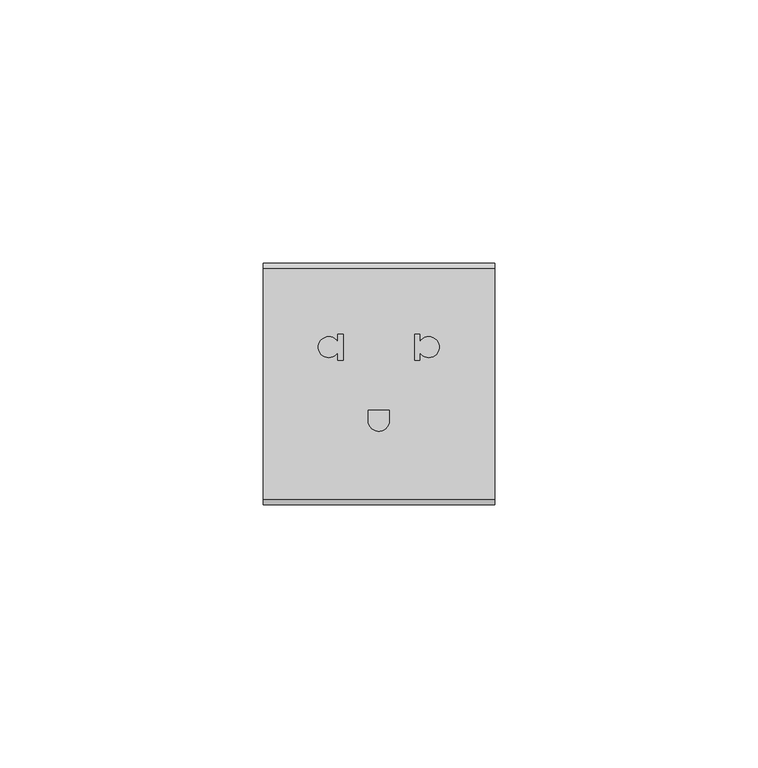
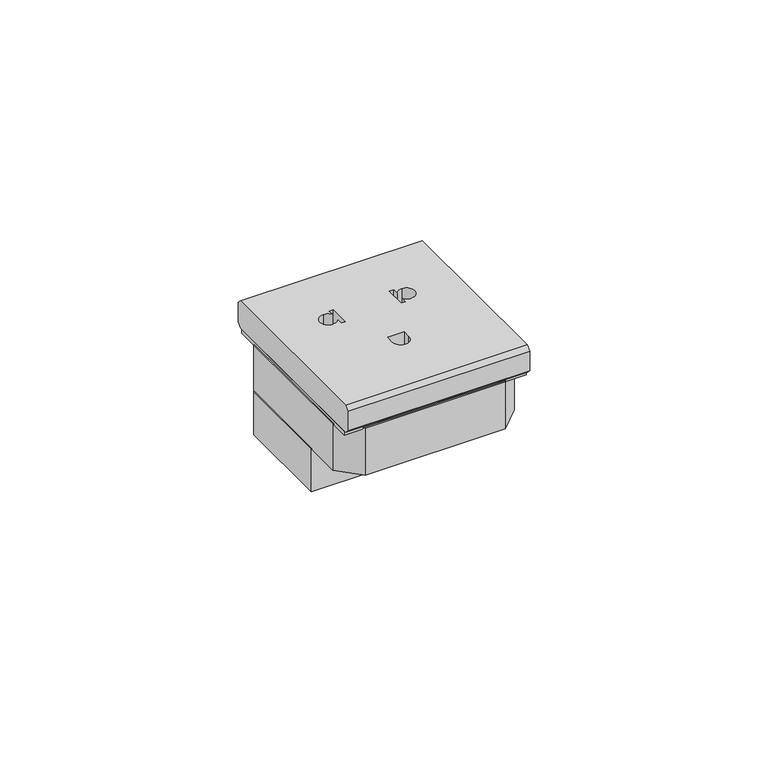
"""IFC4 building model written with IfcOpenShell, lengths in millimetres: proxy geometry, L4126 LI Presa FM 2P+T euro americana : L4126 LI Presa FM 2P+T euro americana."""

import ifcopenshell
import ifcopenshell.guid

model = None  # the IFC model being written
_history = None  # IfcOwnerHistory: only IFC2X3 demands one
_inside = {}  # id of a spatial element -> (the spatial element, [elements in it])
_under = {}  # id of a project, library or spatial element -> (it, [spatial elements below it])
_declared = {}  # id of a project -> (the project, [libraries it declares])
_typed = {}  # id of a type object -> (the type object, [elements of that type])
_made_of = {}  # id of a material, layer set ... -> (it, [elements and type objects made of it])


def new_model(schema):
    """Start an empty IFC model of exactly this schema.

    Asked for "IFC4X3", IfcOpenShell would pick the latest addendum, in which some entities
    have other attributes; the version numbers below select the first issue.
    IFC2X3 requires an IfcOwnerHistory on every rooted entity: one is made here for all.
    """
    global model, _history
    if schema == "IFC4X3":
        model = ifcopenshell.file(schema_version=(4, 3, 0, 0))
    else:
        model = ifcopenshell.file(schema=schema)
    _inside.clear()
    _under.clear()
    _declared.clear()
    _typed.clear()
    _made_of.clear()
    _history = None
    if model.schema == "IFC2X3":
        org = make("IfcOrganization", Name="unknown")
        user = make(
            "IfcPersonAndOrganization",
            ThePerson=make("IfcPerson", FamilyName="unknown"),
            TheOrganization=org,
        )
        app = make(
            "IfcApplication",
            ApplicationDeveloper=org,
            Version="unknown",
            ApplicationFullName="unknown",
            ApplicationIdentifier="unknown",
        )
        _history = make(
            "IfcOwnerHistory",
            OwningUser=user,
            OwningApplication=app,
            ChangeAction="ADDED",
            CreationDate=0,
        )
    return model


def make(cls, **values):
    """One entity of the class cls with the attributes given. An attribute that is None is left unset."""
    return model.create_entity(
        cls, **{name: value for name, value in values.items() if value is not None}
    )


def rooted(cls, **values):
    """An entity with a GlobalId (a new one), such as an element, a storey or a relation."""
    return make(cls, GlobalId=ifcopenshell.guid.new(), OwnerHistory=_history, **values)


def si_unit(unit_type, name, prefix=None):
    """IfcSIUnit, for example si_unit("LENGTHUNIT", "METRE", prefix="MILLI")."""
    return make("IfcSIUnit", UnitType=unit_type, Prefix=prefix, Name=name)


def assignment(units):
    """IfcUnitAssignment: the units of a project."""
    return None if units is None else make("IfcUnitAssignment", Units=units)


def point(xyz):
    """IfcCartesianPoint."""
    return None if xyz is None else make("IfcCartesianPoint", Coordinates=xyz)


def direction(xyz):
    """IfcDirection."""
    return None if xyz is None else make("IfcDirection", DirectionRatios=xyz)


def frame(location, z_axis=None, x_axis=None):
    """IfcAxis2Placement3D, a coordinate frame: its origin and axes. An axis left out is left unset."""
    return make(
        "IfcAxis2Placement3D",
        Location=point(location),
        Axis=direction(z_axis),
        RefDirection=direction(x_axis),
    )


def origin():
    """The frame at (0, 0, 0) with its axes left unset."""
    return frame((0.0, 0.0, 0.0))


def origin_with_axes():
    """The frame at (0, 0, 0) with the z axis (0, 0, 1) and the x axis (1, 0, 0) written out."""
    return frame((0.0, 0.0, 0.0), z_axis=(0.0, 0.0, 1.0), x_axis=(1.0, 0.0, 0.0))


def place(relative_to, where):
    """IfcLocalPlacement: puts the frame where relative to a parent placement (None: the world)."""
    return make(
        "IfcLocalPlacement", PlacementRelTo=relative_to, RelativePlacement=where
    )


def context(
    kind, dimensions, precision=None, world=None, true_north=None, identifier=None
):
    """IfcGeometricRepresentationContext, for example the 3D "Model" context."""
    return make(
        "IfcGeometricRepresentationContext",
        ContextIdentifier=identifier,
        ContextType=kind,
        CoordinateSpaceDimension=dimensions,
        Precision=precision,
        WorldCoordinateSystem=world,
        TrueNorth=true_north,
    )


def project(units=None, contexts=None):
    """IfcProject with its units and contexts."""
    return rooted(
        "IfcProject",
        Name="project",
        RepresentationContexts=contexts,
        UnitsInContext=assignment(units),
    )


def spatial(cls, under=None, at=None, **own):
    """A site, building, storey or space (cls), placed at a placement, below another one or the project."""
    s = rooted(cls, ObjectPlacement=at, **own)
    if under is not None:
        _under.setdefault(under.id(), (under, []))[1].append(s)
    return s


def polyline(points):
    """IfcPolyline through the points."""
    return make("IfcPolyline", Points=[point(p) for p in points])


def circle_curve(where, radius):
    """IfcCircle in the frame where."""
    return make("IfcCircle", Position=where, Radius=radius)


def ellipse_curve(where, semi_axis1, semi_axis2):
    """IfcEllipse in the frame where."""
    return make(
        "IfcEllipse", Position=where, SemiAxis1=semi_axis1, SemiAxis2=semi_axis2
    )


def trimmed(basis, trim1, trim2, sense, master):
    """IfcTrimmedCurve: the piece of a basis curve between two trims."""
    return make(
        "IfcTrimmedCurve",
        BasisCurve=basis,
        Trim1=trim1,
        Trim2=trim2,
        SenseAgreement=sense,
        MasterRepresentation=master,
    )


def outline(outer, holes=None, kind="AREA"):
    """IfcArbitraryClosedProfileDef: a profile drawn as a closed curve; with holes, ...WithVoids."""
    if holes is None:
        return make("IfcArbitraryClosedProfileDef", ProfileType=kind, OuterCurve=outer)
    return make(
        "IfcArbitraryProfileDefWithVoids",
        ProfileType=kind,
        OuterCurve=outer,
        InnerCurves=holes,
    )


def extrude(swept, where, along, depth):
    """IfcExtrudedAreaSolid: the profile swept, set in the frame where, extruded along a direction by depth."""
    return make(
        "IfcExtrudedAreaSolid",
        SweptArea=swept,
        Position=where,
        ExtrudedDirection=direction(along),
        Depth=depth,
    )


def shape(context_of_items, identifier, shape_type, items):
    """IfcShapeRepresentation: the items that make up one representation, for example the "Body"."""
    return make(
        "IfcShapeRepresentation",
        ContextOfItems=context_of_items,
        RepresentationIdentifier=identifier,
        RepresentationType=shape_type,
        Items=items,
    )


def source(mapping_origin, context_of_items, identifier, shape_type, items):
    """IfcRepresentationMap: a shape defined once, which mapped items show again and again."""
    return make(
        "IfcRepresentationMap",
        MappingOrigin=mapping_origin,
        MappedRepresentation=shape(context_of_items, identifier, shape_type, items),
    )


def transform(
    local_origin,
    x_axis=None,
    y_axis=None,
    z_axis=None,
    scale=None,
    scale2=None,
    scale3=None,
    uniform=True,
):
    """IfcCartesianTransformationOperator3D, or its non-uniform kind. x_axis, y_axis, z_axis: its Axis1, 2, 3."""
    if uniform:
        return make(
            "IfcCartesianTransformationOperator3D",
            Axis1=direction(x_axis),
            Axis2=direction(y_axis),
            LocalOrigin=point(local_origin),
            Scale=scale,
            Axis3=direction(z_axis),
        )
    return make(
        "IfcCartesianTransformationOperator3DnonUniform",
        Axis1=direction(x_axis),
        Axis2=direction(y_axis),
        LocalOrigin=point(local_origin),
        Scale=scale,
        Axis3=direction(z_axis),
        Scale2=scale2,
        Scale3=scale3,
    )


def mapped(mapping_source, mapping_target):
    """IfcMappedItem: shows the shape of a source again, moved by a transform."""
    return make(
        "IfcMappedItem", MappingSource=mapping_source, MappingTarget=mapping_target
    )


def made_of(thing, what):
    """Note that an element or type object is made of a material, layer set ...; save() writes the relation."""
    if what is not None:
        _made_of.setdefault(what.id(), (what, []))[1].append(thing)
    return thing


def element(
    cls,
    number,
    at=None,
    inside=None,
    cuts=None,
    type_object=None,
    material=None,
    context=None,
    identifier="Body",
    shape_type=None,
    held_by="IfcProductDefinitionShape",
    body=None,
    shapes=None,
    **own,
):
    """One element of the class cls, such as IfcWall. Its Tag is "e" and its number.

    at: its placement. inside: the storey or other place that contains it. cuts: it is an
    opening in that element (IfcRelVoidsElement). A single representation is given by context,
    identifier, shape_type and body (its items); several are given by shapes. held_by: the class
    of the entity that holds the representations. save() writes the other relations.
    """
    e = rooted(cls, Tag="e%d" % number, ObjectPlacement=at, **own)
    if body is not None:
        shapes = [shape(context, identifier, shape_type, body)]
    if shapes is not None:
        e.Representation = make(held_by, Representations=shapes)
    if inside is not None:
        _inside.setdefault(inside.id(), (inside, []))[1].append(e)
    if cuts is not None:
        rooted(
            "IfcRelVoidsElement", RelatingBuildingElement=cuts, RelatedOpeningElement=e
        )
    if type_object is not None:
        _typed.setdefault(type_object.id(), (type_object, []))[1].append(e)
    return made_of(e, material)


def aggregate(whole, parts):
    """IfcRelAggregates: a whole, such as a stair, and the parts it consists of."""
    return rooted("IfcRelAggregates", RelatingObject=whole, RelatedObjects=parts)


def save(model, path):
    """Write the relations noted so far, then the file.

    IfcRelAggregates (storeys below a building ...), IfcRelContainedInSpatialStructure (elements
    in a storey), IfcRelDefinesByType, IfcRelAssociatesMaterial and IfcRelDeclares: one each for
    every whole, place, type object, material and project.
    """
    for whole, parts in _under.values():
        aggregate(whole, parts)
    for where, things in _inside.values():
        rooted(
            "IfcRelContainedInSpatialStructure",
            RelatedElements=things,
            RelatingStructure=where,
        )
    for kind, things in _typed.values():
        rooted("IfcRelDefinesByType", RelatedObjects=things, RelatingType=kind)
    for what, things in _made_of.values():
        rooted("IfcRelAssociatesMaterial", RelatedObjects=things, RelatingMaterial=what)
    for by, libraries in _declared.values():
        rooted("IfcRelDeclares", RelatingContext=by, RelatedDefinitions=libraries)
    model.write(path)


def plane_surface(at):
    """IfcPlane: the flat surface through the origin of the frame at, square to its z axis."""
    return make("IfcPlane", Position=at)


def revolved_surface(curve, axis_point, axis_direction):
    """IfcSurfaceOfRevolution: the curve turned about the line through axis_point along axis_direction."""
    return make(
        "IfcSurfaceOfRevolution",
        SweptCurve=make("IfcArbitraryOpenProfileDef", ProfileType="CURVE", Curve=curve),
        AxisPosition=make("IfcAxis1Placement", Location=point(axis_point), Axis=direction(axis_direction)),
    )


def extruded_surface(curve, direction_of_extrusion, depth):
    """IfcSurfaceOfLinearExtrusion: the curve pushed along a direction by depth."""
    return make(
        "IfcSurfaceOfLinearExtrusion",
        SweptCurve=make("IfcArbitraryOpenProfileDef", ProfileType="CURVE", Curve=curve),
        ExtrudedDirection=direction(direction_of_extrusion),
        Depth=depth,
    )


def advanced_brep(points, edges, surfaces, faces):
    """IfcAdvancedBrep: a solid bounded by faces that lie on surfaces and meet in shared edges.

    An edge is (start, end): straight between two places in points (the first is 0);
    or (start, end, curve); or (start, end, curve, False) where it runs against its curve.
    A face is (place in surfaces, loops), or (place, loops, False) where it looks against
    its surface's normal. A loop lists edges by number (the first is 1), with a minus sign
    where the edge is run from its end to its start. The first loop is the outer one.
    """
    corners = [point(p) for p in points]
    vertices = [make("IfcVertexPoint", VertexGeometry=c) for c in corners]
    made = []
    for start, end, *more in edges:
        made.append(
            make(
                "IfcEdgeCurve",
                EdgeStart=vertices[start],
                EdgeEnd=vertices[end],
                EdgeGeometry=more[0] if more else make("IfcPolyline", Points=[corners[start], corners[end]]),
                SameSense=more[1] if len(more) > 1 else True,
            )
        )
    hull = []
    for where, loops, *sense in faces:
        bounds = []
        for j, loop in enumerate(loops):
            ring = [make("IfcOrientedEdge", EdgeElement=made[abs(k) - 1], Orientation=k > 0) for k in loop]
            bounds.append(
                make(
                    "IfcFaceOuterBound" if j == 0 else "IfcFaceBound",
                    Bound=make("IfcEdgeLoop", EdgeList=ring),
                    Orientation=True,
                )
            )
        hull.append(make("IfcAdvancedFace", Bounds=bounds, FaceSurface=surfaces[where], SameSense=sense[0] if sense else True))
    return make("IfcAdvancedBrep", Outer=make("IfcClosedShell", CfsFaces=hull))


def electrical_fixtures_458b549f(model_context):
    return source(origin(), model_context, "Body", "SolidModel", [
        advanced_brep(
        [(22.0, -22.0, 1.0), (22.0, 22.0, 1.0), (22.0, 22.9899495, 1.9899495), (22.0, 22.9899495, 6.9899495), (22.0, 22.0, 7.979899), (22.0, -22.0, 7.979899), (22.0, -22.9899495, 6.9899495), (22.0, -22.9899495, 1.9899495), (-22.0, -22.0, 1.0), (-22.0, -22.9899495, 1.9899495), (-22.0, -22.9899495, 6.9899495), (-22.0, -22.0, 7.979899), (-22.0, 22.0, 7.979899), (-22.0, 22.9899495, 6.9899495), (-22.0, 22.9899495, 1.9899495), (-22.0, 22.0, 1.0), (9.5, 5.0, 1.0), (9.5, 9.0, 1.0), (7.8, 8.0535654, 1.0), (7.8, 9.5, 1.0), (6.8, 9.5, 1.0), (6.8, 4.5, 1.0), (7.8, 4.5, 1.0), (7.8, 5.9464346, 1.0), (-9.5, 9.0, 1.0), (-9.5, 5.0, 1.0), (-7.8, 5.9464346, 1.0), (-7.8, 4.5, 1.0), (-6.8, 4.5, 1.0), (-6.8, 9.5, 1.0), (-7.8, 9.5, 1.0), (-7.8, 8.0535654, 1.0), (2.0, -5.0, 1.0), (-2.0, -5.0, 1.0), (-2.0, -7.0, 1.0), (2.0, -7.0, 1.0), (9.5, 9.0, 7.979899), (9.5, 5.0, 7.979899), (7.8, 5.9464346, 7.979899), (7.8, 4.5, 7.979899), (6.8, 4.5, 7.979899), (6.8, 9.5, 7.979899), (7.8, 9.5, 7.979899), (7.8, 8.0535654, 7.979899), (-9.5, 5.0, 7.979899), (-9.5, 9.0, 7.979899), (-7.8, 8.0535654, 7.979899), (-7.8, 9.5, 7.979899), (-6.8, 9.5, 7.979899), (-6.8, 4.5, 7.979899), (-7.8, 4.5, 7.979899), (-7.8, 5.9464346, 7.979899), (-2.0, -5.0, 7.979899), (2.0, -5.0, 7.979899), (2.0, -7.0, 7.979899), (-2.0, -7.0, 7.979899)],
        [
            (0, 1),
            (1, 2),
            (2, 3),
            (3, 4),
            (4, 5),
            (5, 6),
            (6, 7),
            (7, 0),
            (8, 9),
            (9, 10),
            (10, 11),
            (11, 12),
            (12, 13),
            (13, 14),
            (14, 15),
            (15, 8),
            (0, 8),
            (15, 1),
            (16, 17, circle_curve(frame((9.5, 7.0, 1.0), z_axis=(0.0, 0.0, 1.0), x_axis=(0.0, -1.0, 0.0)), 2.0)),
            (17, 18, circle_curve(frame((9.5, 7.0, 1.0), z_axis=(0.0, 0.0, 1.0), x_axis=(0.0, -1.0, 0.0)), 2.0)),
            (18, 19),
            (19, 20),
            (20, 21),
            (21, 22),
            (22, 23),
            (23, 16, circle_curve(frame((9.5, 7.0, 1.0), z_axis=(0.0, 0.0, 1.0), x_axis=(0.0, -1.0, 0.0)), 2.0)),
            (24, 25, circle_curve(frame((-9.5, 7.0, 1.0), z_axis=(0.0, 0.0, 1.0), x_axis=(0.0, -1.0, 0.0)), 2.0)),
            (25, 26, circle_curve(frame((-9.5, 7.0, 1.0), z_axis=(0.0, 0.0, 1.0), x_axis=(0.0, -1.0, 0.0)), 2.0)),
            (26, 27),
            (27, 28),
            (28, 29),
            (29, 30),
            (30, 31),
            (31, 24, circle_curve(frame((-9.5, 7.0, 1.0), z_axis=(0.0, 0.0, 1.0), x_axis=(0.0, -1.0, 0.0)), 2.0)),
            (32, 33),
            (33, 34),
            (34, 35, circle_curve(frame((0.0, -7.0, 1.0), z_axis=(0.0, 0.0, 1.0), x_axis=(-1.0, 0.0, 0.0)), 2.0)),
            (35, 32),
            (5, 11),
            (10, 6),
            (9, 7),
            (14, 2),
            (13, 3),
            (12, 4),
            (36, 37, circle_curve(frame((9.5, 7.0, 7.979899), z_axis=(0.0, 0.0, -1.0), x_axis=(0.0, -1.0, 0.0)), 2.0)),
            (37, 38, circle_curve(frame((9.5, 7.0, 7.979899), z_axis=(0.0, 0.0, -1.0), x_axis=(0.0, -1.0, 0.0)), 2.0)),
            (38, 39),
            (39, 40),
            (40, 41),
            (41, 42),
            (42, 43),
            (43, 36, circle_curve(frame((9.5, 7.0, 7.979899), z_axis=(0.0, 0.0, -1.0), x_axis=(0.0, -1.0, 0.0)), 2.0)),
            (44, 45, circle_curve(frame((-9.5, 7.0, 7.979899), z_axis=(0.0, 0.0, -1.0), x_axis=(0.0, -1.0, 0.0)), 2.0)),
            (45, 46, circle_curve(frame((-9.5, 7.0, 7.979899), z_axis=(0.0, 0.0, -1.0), x_axis=(0.0, -1.0, 0.0)), 2.0)),
            (46, 47),
            (47, 48),
            (48, 49),
            (49, 50),
            (50, 51),
            (51, 44, circle_curve(frame((-9.5, 7.0, 7.979899), z_axis=(0.0, 0.0, -1.0), x_axis=(0.0, -1.0, 0.0)), 2.0)),
            (52, 53),
            (53, 54),
            (54, 55, circle_curve(frame((0.0, -7.0, 7.979899), z_axis=(0.0, 0.0, -1.0), x_axis=(-1.0, 0.0, 0.0)), 2.0)),
            (55, 52),
            (17, 36),
            (43, 18),
            (37, 16),
            (23, 38),
            (44, 25),
            (24, 45),
            (31, 46),
            (51, 26),
            (39, 22),
            (21, 40),
            (42, 19),
            (41, 20),
            (48, 29),
            (28, 49),
            (47, 30),
            (50, 27),
            (52, 33),
            (32, 53),
            (55, 34),
            (54, 35),
        ],
        [
            plane_surface(frame((22.0, 0.0, 1.0), z_axis=(1.0, 0.0, 0.0), x_axis=(0.0, 1.0, 0.0))),
            plane_surface(frame((-22.0, 0.0, 1.0), z_axis=(-1.0, 0.0, 0.0), x_axis=(0.0, -1.0, 0.0))),
            plane_surface(frame((22.0, -22.0, 1.0), z_axis=(0.0, 0.0, -1.0), x_axis=(-1.0, 0.0, 0.0))),
            plane_surface(frame((22.0, -22.0, 7.979899), z_axis=(0.0, -0.7071067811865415, 0.7071067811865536), x_axis=(-1.0, 0.0, 0.0))),
            plane_surface(frame((22.0, -22.9899495, 6.9899495), z_axis=(0.0, -1.0, 0.0), x_axis=(-1.0, 0.0, 0.0))),
            plane_surface(frame((22.0, -22.9899495, 1.9899495), z_axis=(0.0, -0.707106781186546, -0.707106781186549), x_axis=(-1.0, 0.0, 0.0))),
            plane_surface(frame((22.0, 22.0, 1.0), z_axis=(0.0, 0.7071067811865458, -0.7071067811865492), x_axis=(-1.0, 0.0, 0.0))),
            plane_surface(frame((22.0, 22.9899495, 1.9899495), z_axis=(0.0, 1.0, 0.0), x_axis=(-1.0, 0.0, 0.0))),
            plane_surface(frame((22.0, 22.9899495, 6.9899495), z_axis=(0.0, 0.7071067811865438, 0.7071067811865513), x_axis=(-1.0, 0.0, 0.0))),
            plane_surface(frame((22.0, 22.0, 7.979899), z_axis=(0.0, 0.0, 1.0), x_axis=(-1.0, 0.0, 0.0))),
            revolved_surface(polyline([(9.5, 5.0, 7.979899), (9.5, 5.0, 1.0)]), (9.5, 7.0, 1.0), (0.0, 0.0, 1.0)),
            revolved_surface(polyline([(-9.5, 5.0, 7.979899), (-9.5, 5.0, 1.0)]), (-9.5, 7.0, 0.0), (0.0, 0.0, 1.0)),
            plane_surface(frame((6.8, 4.5, 7.979899), z_axis=(0.0, 1.0, 0.0), x_axis=(0.0, 0.0, -1.0))),
            plane_surface(frame((7.8, 4.5, 7.979899), z_axis=(-1.0, 0.0, 0.0), x_axis=(0.0, 0.0, -1.0))),
            plane_surface(frame((7.8, 9.5, 7.979899), z_axis=(0.0, -1.0, 0.0), x_axis=(0.0, 0.0, -1.0))),
            plane_surface(frame((6.8, 9.5, 7.979899), z_axis=(1.0, 0.0, 0.0), x_axis=(0.0, 0.0, -1.0))),
            plane_surface(frame((-6.8, 4.5, 7.979899), z_axis=(-1.0, 0.0, 0.0), x_axis=(0.0, 0.0, -1.0))),
            plane_surface(frame((-6.8, 9.5, 7.979899), z_axis=(0.0, -1.0, 0.0), x_axis=(0.0, 0.0, -1.0))),
            plane_surface(frame((-7.8, 9.5, 7.979899), z_axis=(1.0, 0.0, 0.0), x_axis=(0.0, 0.0, -1.0))),
            plane_surface(frame((-7.8, 4.5, 7.979899), z_axis=(0.0, 1.0, 0.0), x_axis=(0.0, 0.0, -1.0))),
            plane_surface(frame((2.0, -5.0, 7.979899), z_axis=(0.0, -1.0, 0.0), x_axis=(0.0, 0.0, -1.0))),
            plane_surface(frame((-2.0, -5.0, 7.979899), z_axis=(1.0, 0.0, 0.0), x_axis=(0.0, 0.0, -1.0))),
            extruded_surface(trimmed(ellipse_curve(frame((0.0, -7.0, 0.0), z_axis=(0.0, 0.0, 1.0), x_axis=(-1.0, 0.0, 0.0)), 2.0, 2.0), [point((-2.0, -7.0, 0.0))], [point((2.0, -7.0, 0.0))], True, "CARTESIAN"), (0.0, 0.0, -6.979899), 6.979899),
            plane_surface(frame((2.0, -7.0, 7.979899), z_axis=(-1.0, 0.0, 0.0), x_axis=(0.0, 0.0, -1.0))),
        ],
        [
            (0, [[1, 2, 3, 4, 5, 6, 7, 8]]),
            (1, [[9, 10, 11, 12, 13, 14, 15, 16]]),
            (2, [[-1, 17, -16, 18], [19, 20, 21, 22, 23, 24, 25, 26], [27, 28, 29, 30, 31, 32, 33, 34], [35, 36, 37, 38]]),
            (3, [[-6, 39, -11, 40]]),
            (4, [[-7, -40, -10, 41]]),
            (5, [[-8, -41, -9, -17]]),
            (6, [[-2, -18, -15, 42]]),
            (7, [[-3, -42, -14, 43]]),
            (8, [[-4, -43, -13, 44]]),
            (9, [[-5, -44, -12, -39], [45, 46, 47, 48, 49, 50, 51, 52], [53, 54, 55, 56, 57, 58, 59, 60], [61, 62, 63, 64]]),
            (10, [[65, -52, 66, -20]]),
            (10, [[67, -26, 68, -46]]),
            (10, [[-67, -45, -65, -19]]),
            (11, [[69, -27, 70, -53]]),
            (11, [[-70, -34, 71, -54]]),
            (11, [[-69, -60, 72, -28]]),
            (12, [[73, -24, 74, -48]]),
            (13, [[-73, -47, -68, -25]]),
            (13, [[75, -21, -66, -51]]),
            (14, [[-75, -50, 76, -22]]),
            (15, [[-74, -23, -76, -49]]),
            (16, [[77, -31, 78, -57]]),
            (17, [[-77, -56, 79, -32]]),
            (18, [[-79, -55, -71, -33]]),
            (18, [[80, -29, -72, -59]]),
            (19, [[-78, -30, -80, -58]]),
            (20, [[81, -35, 82, -61]]),
            (21, [[-81, -64, 83, -36]]),
            (22, [[-83, -63, 84, -37]]),
            (23, [[-82, -38, -84, -62]]),
        ],
    ),
        extrude(outline(polyline([(-22.0, -7.5), (-22.0, 16.5), (-20.0, 18.5), (20.0, 18.5), (22.0, 16.5), (22.0, -7.5), (-22.0, -7.5)])), frame((0.0, 0.0, -23.0), z_axis=(0.0, 0.0, 1.0), x_axis=(1.0, 0.0, 0.0)), (0.0, 0.0, 1.0), 11.0),
        extrude(outline(polyline([(22.0, -16.5), (17.0, -21.5), (-17.0, -21.5), (-22.0, -16.5), (-22.0, 16.5), (-17.0, 21.5), (17.0, 21.5), (22.0, 16.5), (22.0, -16.5)])), frame((0.0, 0.0, -12.0), z_axis=(0.0, 0.0, 1.0), x_axis=(1.0, 0.0, 0.0)), (0.0, 0.0, 1.0), 12.0),
        extrude(outline(polyline([(22.0, -21.5), (-22.0, -21.5), (-22.0, 21.5), (22.0, 21.5), (22.0, -21.5)])), origin_with_axes(), (0.0, 0.0, 1.0), 1.0),
    ])


if __name__ == "__main__":
    model = new_model("IFC4")
    model_context = context("Model", 3, world=origin())
    ifc_project = project(units=[si_unit("LENGTHUNIT", "METRE", prefix="MILLI")], contexts=[model_context])
    site = spatial("IfcSite", under=ifc_project)
    building = spatial("IfcBuilding", under=site)
    placement = place(None, origin())
    electrical_fixtures_shape = electrical_fixtures_458b549f(model_context)
    element("IfcBuildingElementProxy", 1, Name="L4126 LI Presa FM 2P+T euro americana : L4126 LI Presa FM 2P+T euro americana", ObjectType="L4126 LI Presa FM 2P+T euro americana : L4126 LI Presa FM 2P+T euro americana", at=placement, inside=building, context=model_context, shape_type="MappedRepresentation", body=[
        mapped(electrical_fixtures_shape, transform((0.0, 0.0, 0.0), x_axis=(1.0, 0.0, 0.0), y_axis=(0.0, 1.0, 0.0), z_axis=(0.0, 0.0, 1.0))),
    ])
    save(model, "model.ifc")
